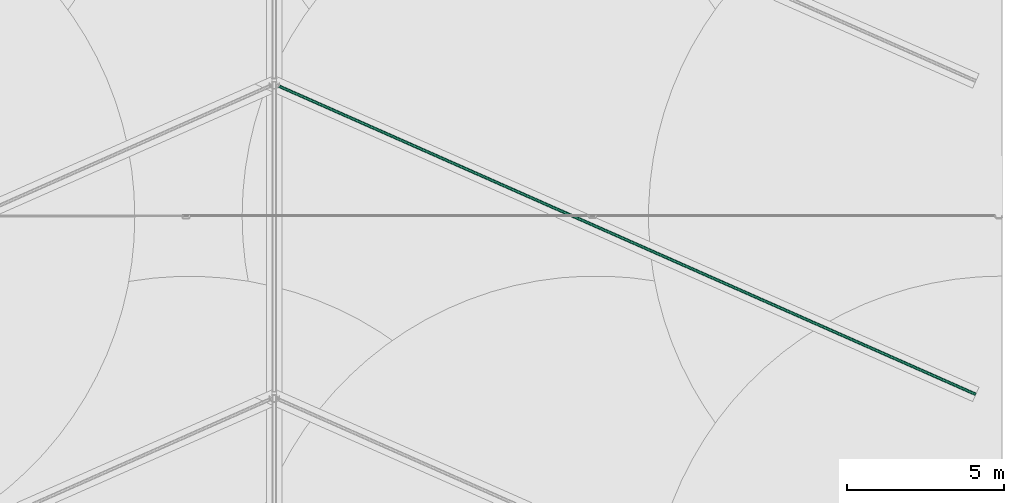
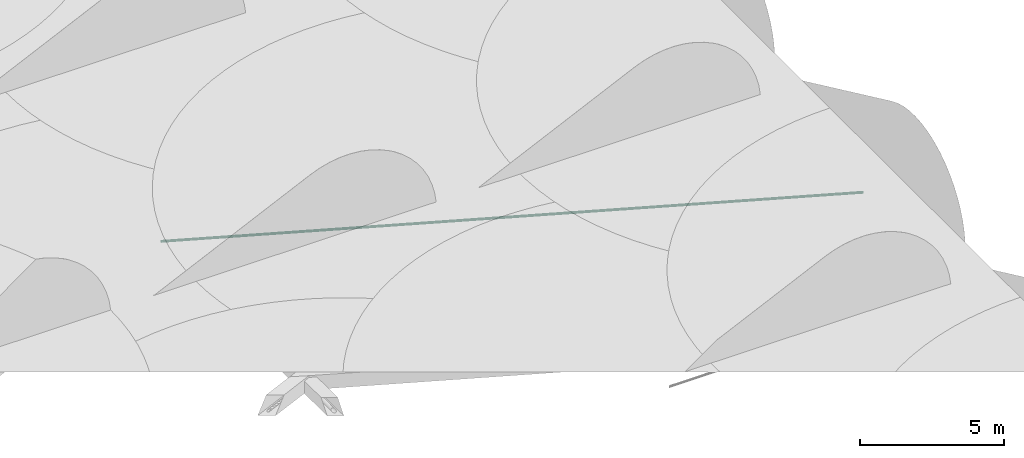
# One storey, part 33 of 166: 1 flow segment.
"""IFC2X3 building model written with IfcOpenShell, lengths in metres."""

from ifc_helpers import new_model, entity, si_unit, converted_unit, direction, frame, frame_2d, origin, place, context, subcontext, project, spatial, circle, extrude, type_object, element, save


model = new_model("IFC2X3")

# Units and contexts
model_context = context("Model", 3, precision=1e-05, world=origin(), true_north=direction((6.123233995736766e-17, 1.0)))
body_context = subcontext(model_context, "Body", "Model", "MODEL_VIEW")
ifc_project = project(units=[si_unit("LENGTHUNIT", "METRE"), converted_unit("PLANEANGLEUNIT", "DEGREE", entity("IfcPlaneAngleMeasure", 0.017453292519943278), si_unit("PLANEANGLEUNIT", "RADIAN"), dimensions=[0, 0, 0, 0, 0, 0, 0]), si_unit("AREAUNIT", "SQUARE_METRE")], contexts=[model_context])

# Site, building, storey
site_placement = place(None, origin())
site = spatial("IfcSite", under=ifc_project, at=site_placement, Name="Default", CompositionType="ELEMENT")
building_placement = place(site_placement, origin())
building = spatial("IfcBuilding", under=site, at=building_placement, Name="CASA DE ACOLHIDA PARA IDOSOS", CompositionType="ELEMENT")
storey_placement = place(building_placement, frame((0.0, 0.0, -1.7499999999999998)))
storey = spatial("IfcBuildingStorey", under=building, at=storey_placement, Name="IMPLANTAÇÃO DRENAGEM", CompositionType="ELEMENT", Elevation=-1.7499999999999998)

# Flow segment
pipe_segment_type = type_object("IfcPipeSegmentType", Name="Tipos de tubos:PLUV_Tubo PEAD Corrugado", PredefinedType="NOTDEFINED")
flow_segment_placement = place(storey_placement, origin())
element("IfcFlowSegment", 1, at=flow_segment_placement, inside=storey, type_object=pipe_segment_type, Name="Tipos de tubos:PLUV_Tubo PEAD Corrugado", ObjectType="Tipos de tubos:PLUV_Tubo PEAD Corrugado", context=body_context, shape_type="SweptSolid", body=[
    extrude(circle(Radius=0.05, at=frame_2d((-4.951603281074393e-16, 2.1900173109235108e-18), x_axis=(1.0, 0.0))), frame((45.35555726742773, 3.9530579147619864, -0.7500099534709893), z_axis=(-0.9144899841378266, 0.4044849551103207, -0.009999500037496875), x_axis=(0.40450517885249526, 0.9145357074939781, 0.0)), (0.0, 0.0, 1.0), 24.48022857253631),
])

save(model, "model.ifc")
